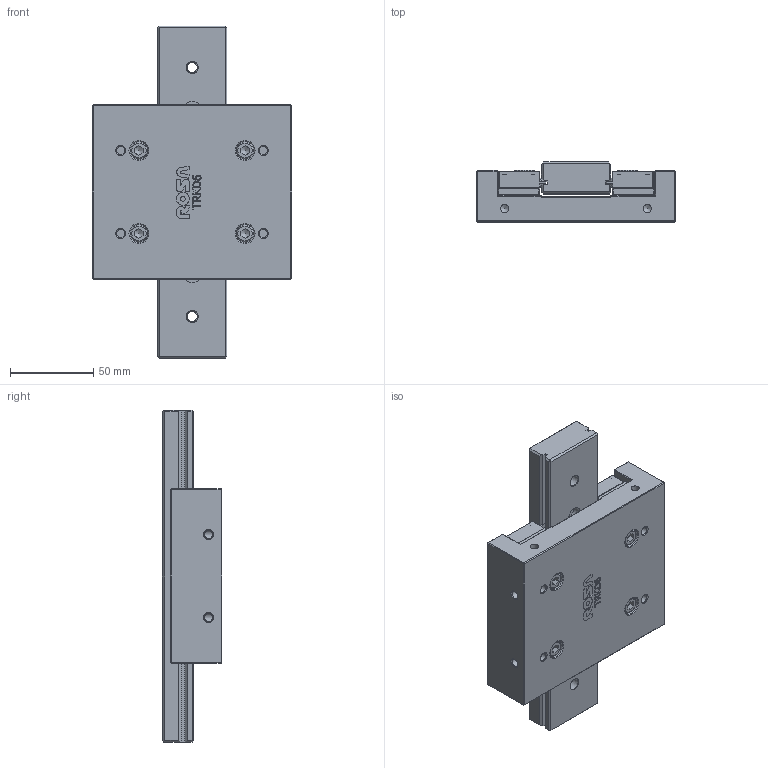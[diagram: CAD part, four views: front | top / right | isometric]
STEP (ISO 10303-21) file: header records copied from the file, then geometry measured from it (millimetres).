
FILE_DESCRIPTION(/* description */ ('TAVOLA TRKD06 L= 200 mm'),/* implementation_level */ '2;1');
FILE_NAME(/* name */ 'TRKD060200-00.stp',/* time_stamp */ '2024-01-25T10:06:19+01:00',/* author */ ('ufficiotecnico'),/* organization */ (''),/* preprocessor_version */ 'ST-DEVELOPER v20',/* originating_system */ 'Autodesk Inventor 2024',/* authorisation */ '');
FILE_SCHEMA (('AUTOMOTIVE_DESIGN { 1 0 10303 214 3 1 1 }'));
Length unit declared in the file: millimetre
Products named in the file (2): TRKD060200-00; TRKD060200-00_1
Assembly tree (1 placements, depth 2):
  TRKD060200-00
    TRKD060200-00_1
Bounding box: 120 x 36 x 200 mm (x, y, z)
Volume: 447221.4 mm3; surface area: 93290.4 mm2
Topology: 13 solids, 13 shells, 666 faces, 1724 edges, 1108 vertices
Faces by surface type: plane 413, cone 86, cylinder 81, bspline 36, sphere 26, torus 24
Full cylindrical faces by diameter (mm): 2 x2, 2.795 x1, 4.134 x4, 4.917 x14, 6 x14, 7 x2, 7.687 x1, 9.5 x2, 9.9 x4, 10 x4, 11 x4
Entity records: 21224 total; most frequent: CARTESIAN_POINT 4503, ORIENTED_EDGE 3320, DIRECTION 3202, EDGE_CURVE 1660, VERTEX_POINT 1108, AXIS2_PLACEMENT_3D 1091, LINE 1020, VECTOR 1020
